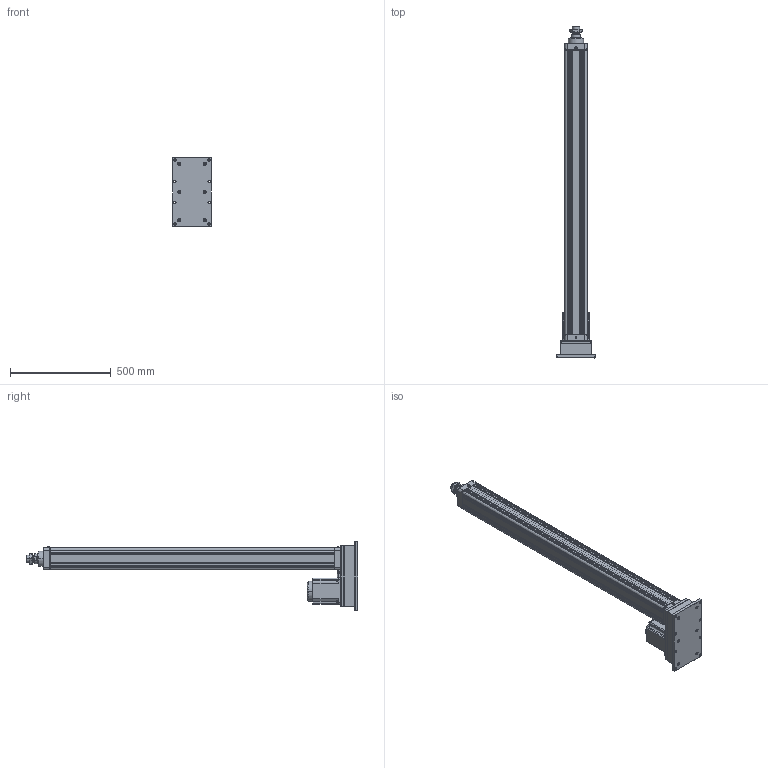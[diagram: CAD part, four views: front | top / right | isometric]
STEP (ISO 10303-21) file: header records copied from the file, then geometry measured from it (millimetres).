
FILE_DESCRIPTION((''),'2;1');
FILE_NAME('HE100-D-P_ASM','2020-04-21T',('ASUS20200'),(''),'CREO PARAMETRIC BY PTC INC, 2014190','CREO PARAMETRIC BY PTC INC, 2014190','');
FILE_SCHEMA(('CONFIG_CONTROL_DESIGN'));
Length unit declared in the file: millimetre
Products named in the file (23): HE100-D-P-001-X1; HE100-D-P-002-X1; HE100-D-P-003-X1; JDB506030; SLM-01; YZ-M6X1; HE100-100-D-P-X1_ASM; HE100-P-010-X1-130N; 130ST-M10010; HE100-P-009-X1-130N; HE100-P-013-X1-130N; TD-8; M8X35; M8X75; LM-M8-7-5; M10X1-25-40; LM-M10-30; LM-M10; HE100-D-P-005-X1; HE100-D-P-004-X1; HE80-D-P-008-X1; LGLM-M10-25; HE100-D-P_ASM
Assembly tree (39 placements, depth 3):
  HE100-D-P_ASM
    HE100-100-D-P-X1_ASM
      HE100-D-P-001-X1
      HE100-D-P-002-X1
      HE100-D-P-003-X1
      JDB506030
      SLM-01
      YZ-M6X1
    HE100-P-010-X1-130N
    130ST-M10010
    HE100-P-009-X1-130N
    HE100-P-013-X1-130N
    TD-8  x4
    M8X35  x4
    M8X75  x6
    LM-M8-7-5  x4
    M10X1-25-40
    LM-M10-30
    LM-M10
    HE100-D-P-005-X1
    HE100-D-P-004-X1
    HE80-D-P-008-X1
    LGLM-M10-25  x4
Bounding box: 190 x 1644 x 340 mm (x, y, z)
Volume: 9357448.5 mm3; surface area: 2512414.9 mm2
Topology: 38 solids, 68 shells, 1817 faces, 4235 edges, 2575 vertices
Faces by surface type: plane 652, cone 580, cylinder 489, torus 66, sphere 26, bspline 4
Entity records: 42220 total; most frequent: CARTESIAN_POINT 8296, DIRECTION 7490, ORIENTED_EDGE 6508, EDGE_CURVE 3305, AXIS2_PLACEMENT_3D 2880, VERTEX_POINT 2010, VECTOR 1730, LINE 1730
